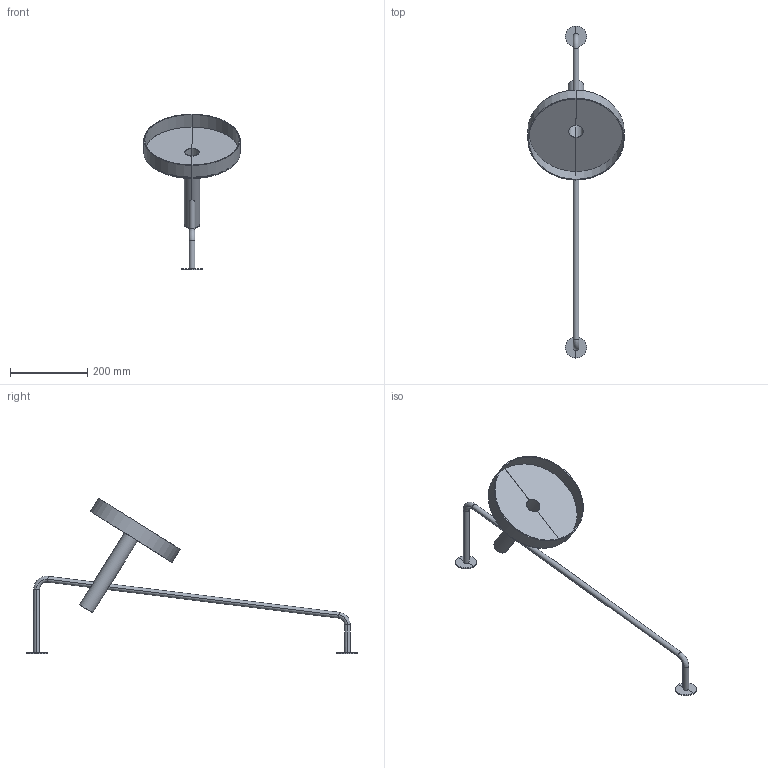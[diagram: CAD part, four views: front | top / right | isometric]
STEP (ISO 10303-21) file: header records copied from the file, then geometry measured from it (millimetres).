
FILE_DESCRIPTION(/* description */ (''),/* implementation_level */ '2;1');
FILE_NAME(/* name */ 'C:\Users\Franco Sartori E\Documents\FARO\DUPLICADO\Modelos\01_Digitalizados\0_WHIZZ\03_Publicación\20165_20162.stp',/* time_stamp */ '2020-10-05T13:53:58+02:00',/* author */ ('Franco Sartori E'),/* organization */ (''),/* preprocessor_version */ 'ST-DEVELOPER v18.1',/* originating_system */ 'AutoCAD Mechanical',/* authorisation */ '');
FILE_SCHEMA (('AUTOMOTIVE_DESIGN { 1 0 10303 214 3 1 1 }'));
Length unit declared in the file: millimetre
Products named in the file (2): Product; 20165_ - WHIZZ-459492-Export
Assembly tree (1 placements, depth 2):
  Product
    20165_ - WHIZZ-459492-Export
Bounding box: 250 x 861 x 403.61 mm (x, y, z)
Volume: 423448.3 mm3; surface area: 425661.1 mm2
Topology: 3 solids, 3 shells, 57 faces, 124 edges, 66 vertices
Faces by surface type: cylinder 30, plane 23, torus 4
Entity records: 1935 total; most frequent: CARTESIAN_POINT 650, DIRECTION 272, ORIENTED_EDGE 246, EDGE_CURVE 123, AXIS2_PLACEMENT_3D 108, VERTEX_POINT 64, FACE_OUTER_BOUND 57, EDGE_LOOP 57
